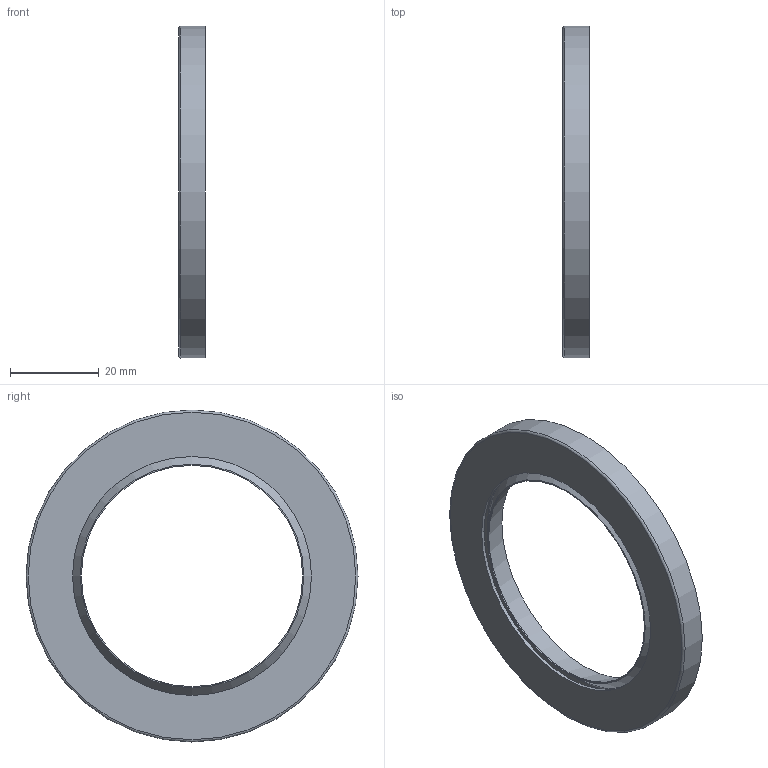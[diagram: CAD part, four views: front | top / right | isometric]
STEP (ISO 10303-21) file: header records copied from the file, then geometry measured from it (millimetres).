
FILE_DESCRIPTION(('STEP AP203'),'1');
FILE_NAME('//192.168.1.1/share/s-4 技術開発/s-4-4_CAD/s-4-4-3_見直し済み/007 修正済み/シール/SBX-50.step','2022-02-16T05:40:14',(' '),(' '),'Spatial InterOp 3D',' ',' ');
FILE_SCHEMA(('CONFIG_CONTROL_DESIGN'));
Length unit declared in the file: millimetre
Products named in the file (1): 1
Bounding box: 6 x 75 x 75 mm (x, y, z)
Volume: 11378.2 mm3; surface area: 9738.2 mm2
Topology: 1 solids, 1 shells, 14 faces, 23 edges, 14 vertices
Faces by surface type: plane 5, cone 3, cylinder 3, torus 3
Full cylindrical faces by diameter (mm): 50 x1, 54 x1, 75 x1
Entity records: 332 total; most frequent: DIRECTION 58, CARTESIAN_POINT 43, AXIS2_PLACEMENT_3D 29, EDGE_LOOP 28, ORIENTED_EDGE 28, FACE_OUTER_BOUND 20, ADVANCED_FACE 14, EDGE_CURVE 14
